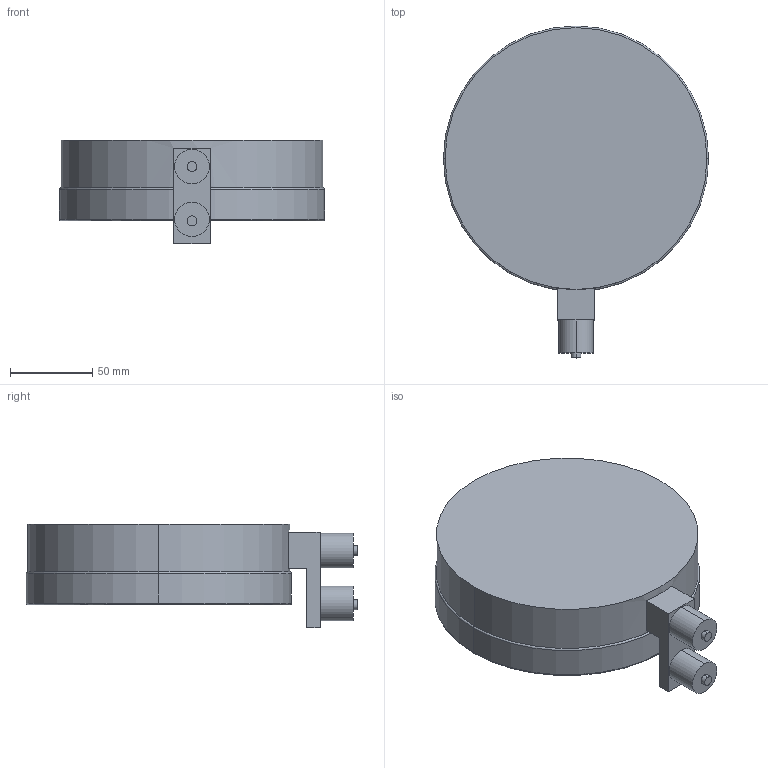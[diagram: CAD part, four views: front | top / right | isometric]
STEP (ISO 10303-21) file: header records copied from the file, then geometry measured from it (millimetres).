
FILE_DESCRIPTION (( 'STEP AP214' ), '1' );
FILE_NAME ('Manometr_puszkowy_roznicowy_x_0_3D_AFRISO.STEP', '2022-12-15T14:04:22', ( '' ), ( '' ), 'SwSTEP 2.0', 'SolidWorks 2022', '' );
FILE_SCHEMA (( 'AUTOMOTIVE_DESIGN' ));
Length unit declared in the file: millimetre
Products named in the file (1): Manometr_puszkowy_roznicowy_x_0_3D_AFRISO
Bounding box: 161 x 201.5 x 63 mm (x, y, z)
Volume: 1012200.7 mm3; surface area: 71466.7 mm2
Topology: 1 solids, 1 shells, 29 faces, 60 edges, 38 vertices
Faces by surface type: plane 13, cylinder 12, torus 4
Entity records: 812 total; most frequent: DIRECTION 152, CARTESIAN_POINT 128, ORIENTED_EDGE 120, AXIS2_PLACEMENT_3D 62, EDGE_CURVE 60, VERTEX_POINT 38, EDGE_LOOP 34, CIRCLE 32
